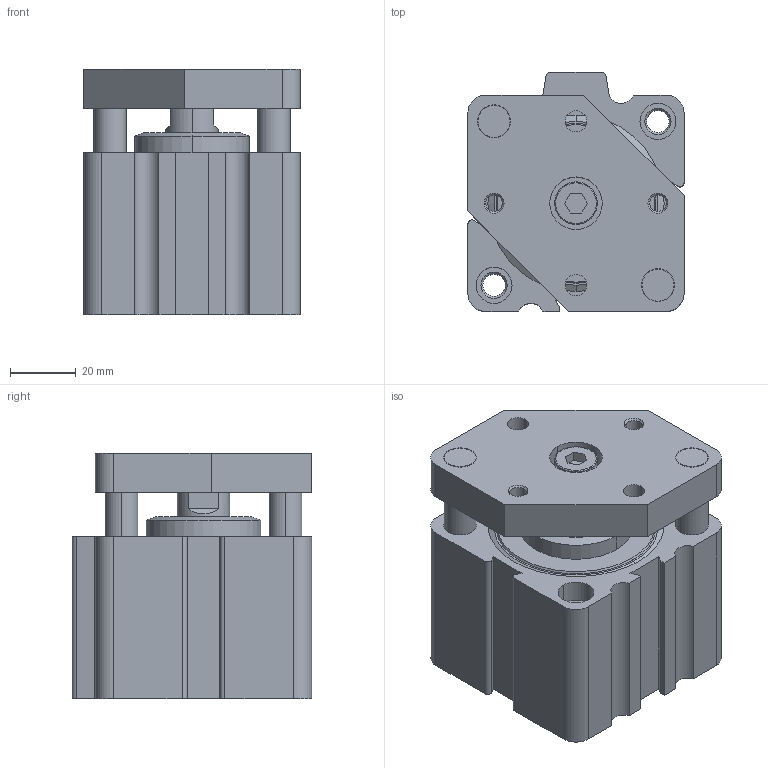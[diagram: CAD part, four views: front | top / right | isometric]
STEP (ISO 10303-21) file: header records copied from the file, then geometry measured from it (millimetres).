
FILE_DESCRIPTION((''),'2;1');
FILE_NAME('0822010861_ASM','2015-07-01T',('vol1hc'),(''),'PRO/ENGINEER BY PARAMETRIC TECHNOLOGY CORPORATION, 2012421','PRO/ENGINEER BY PARAMETRIC TECHNOLOGY CORPORATION, 2012421','');
FILE_SCHEMA(('CONFIG_CONTROL_DESIGN','SHAPE_APPEARANCE_LAYERS_GROUPS'));
Length unit declared in the file: millimetre
Products named in the file (3): 0822010861-A; 0822010861-B; 0822010861_ASM
Assembly tree (2 placements, depth 2):
  0822010861_ASM
    0822010861-A
    0822010861-B
Bounding box: 66 x 73 x 75 mm (x, y, z)
Volume: 232832.8 mm3; surface area: 65418.3 mm2
Topology: 2 solids, 2 shells, 200 faces, 464 edges, 298 vertices
Faces by surface type: cylinder 86, plane 74, cone 34, torus 6
Entity records: 5895 total; most frequent: DIRECTION 1098, CARTESIAN_POINT 984, ORIENTED_EDGE 928, EDGE_CURVE 464, AXIS2_PLACEMENT_3D 431, VERTEX_POINT 298, EDGE_LOOP 246, VECTOR 236
